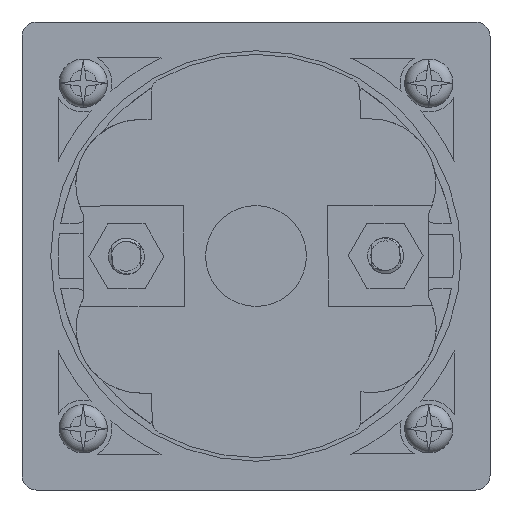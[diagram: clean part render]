
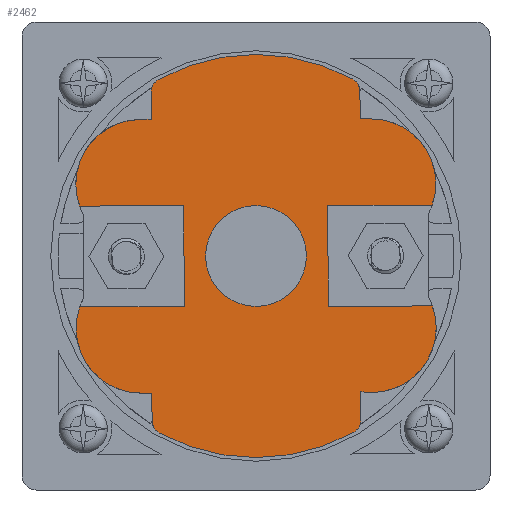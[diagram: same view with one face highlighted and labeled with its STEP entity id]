
A CAD part, front view. The second image highlights one B-rep face of the part: STEP entity #2462.
In plain terms, the highlighted planar face has unit normal (0, -1, 0).
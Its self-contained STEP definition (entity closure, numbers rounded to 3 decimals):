
#1347=FACE_BOUND('',#5130,.T.);
#1348=FACE_BOUND('',#5131,.T.);
#2462=ADVANCED_FACE('',(#1347,#1348),#3197,.F.);
#3197=PLANE('',#20455);
#5130=EDGE_LOOP('',(#12162,#12163,#12164,#12165,#12166,#12167,#12168,#12169,
#12170,#12171,#12172,#12173,#12174,#12175,#12176,#12177,#12178,#12179,#12180,
#12181,#12182,#12183,#12184,#12185,#12186));
#5131=EDGE_LOOP('',(#12187));
#6328=LINE('',#86152,#7697);
#6331=LINE('',#86158,#7700);
#6335=LINE('',#86170,#7704);
#6338=LINE('',#86178,#7707);
#6340=LINE('',#86182,#7709);
#6342=LINE('',#86186,#7711);
#6344=LINE('',#86202,#7713);
#6348=LINE('',#86223,#7717);
#6350=LINE('',#86240,#7719);
#6352=LINE('',#86244,#7721);
#6441=LINE('',#86498,#7810);
#6446=LINE('',#86510,#7815);
#6481=LINE('',#86624,#7850);
#6485=LINE('',#86646,#7854);
#7697=VECTOR('',#23760,1.);
#7700=VECTOR('',#23765,1.);
#7704=VECTOR('',#23777,1.);
#7707=VECTOR('',#23786,1.);
#7709=VECTOR('',#23790,1.);
#7711=VECTOR('',#23794,1.);
#7713=VECTOR('',#23802,1.);
#7717=VECTOR('',#23812,1.);
#7719=VECTOR('',#23822,1.);
#7721=VECTOR('',#23826,1.);
#7810=VECTOR('',#24067,1.);
#7815=VECTOR('',#24082,1.);
#7850=VECTOR('',#24183,1.);
#7854=VECTOR('',#24209,1.);
#12162=ORIENTED_EDGE('',*,*,#17607,.F.);
#12163=ORIENTED_EDGE('',*,*,#17605,.T.);
#12164=ORIENTED_EDGE('',*,*,#17601,.T.);
#12165=ORIENTED_EDGE('',*,*,#17732,.T.);
#12166=ORIENTED_EDGE('',*,*,#17800,.T.);
#12167=ORIENTED_EDGE('',*,*,#17801,.T.);
#12168=ORIENTED_EDGE('',*,*,#17802,.T.);
#12169=ORIENTED_EDGE('',*,*,#17740,.T.);
#12170=ORIENTED_EDGE('',*,*,#17597,.T.);
#12171=ORIENTED_EDGE('',*,*,#17594,.T.);
#12172=ORIENTED_EDGE('',*,*,#17591,.T.);
#12173=ORIENTED_EDGE('',*,*,#17589,.F.);
#12174=ORIENTED_EDGE('',*,*,#17587,.F.);
#12175=ORIENTED_EDGE('',*,*,#17585,.F.);
#12176=ORIENTED_EDGE('',*,*,#17583,.T.);
#12177=ORIENTED_EDGE('',*,*,#17581,.T.);
#12178=ORIENTED_EDGE('',*,*,#17793,.T.);
#12179=ORIENTED_EDGE('',*,*,#17803,.T.);
#12180=ORIENTED_EDGE('',*,*,#17804,.T.);
#12181=ORIENTED_EDGE('',*,*,#17805,.T.);
#12182=ORIENTED_EDGE('',*,*,#17806,.T.);
#12183=ORIENTED_EDGE('',*,*,#17609,.T.);
#12184=ORIENTED_EDGE('',*,*,#17578,.T.);
#12185=ORIENTED_EDGE('',*,*,#17575,.F.);
#12186=ORIENTED_EDGE('',*,*,#17572,.F.);
#12187=ORIENTED_EDGE('',*,*,#17571,.F.);
#15117=VERTEX_POINT('',#86150);
#15118=VERTEX_POINT('',#86153);
#15119=VERTEX_POINT('',#86154);
#15120=VERTEX_POINT('',#86159);
#15122=VERTEX_POINT('',#86165);
#15123=VERTEX_POINT('',#86169);
#15124=VERTEX_POINT('',#86171);
#15125=VERTEX_POINT('',#86175);
#15126=VERTEX_POINT('',#86179);
#15127=VERTEX_POINT('',#86183);
#15128=VERTEX_POINT('',#86187);
#15129=VERTEX_POINT('',#86191);
#15131=VERTEX_POINT('',#86203);
#15133=VERTEX_POINT('',#86215);
#15136=VERTEX_POINT('',#86222);
#15137=VERTEX_POINT('',#86224);
#15139=VERTEX_POINT('',#86237);
#15141=VERTEX_POINT('',#86245);
#15220=VERTEX_POINT('',#86496);
#15224=VERTEX_POINT('',#86511);
#15264=VERTEX_POINT('',#86622);
#15268=VERTEX_POINT('',#86636);
#15269=VERTEX_POINT('',#86638);
#15270=VERTEX_POINT('',#86641);
#15271=VERTEX_POINT('',#86643);
#15272=VERTEX_POINT('',#86645);
#17571=EDGE_CURVE('',#15117,#15117,#19017,.T.);
#17572=EDGE_CURVE('',#15118,#15119,#6328,.T.);
#17575=EDGE_CURVE('',#15119,#15120,#6331,.T.);
#17578=EDGE_CURVE('',#15122,#15120,#19019,.T.);
#17581=EDGE_CURVE('',#15124,#15123,#6335,.T.);
#17583=EDGE_CURVE('',#15125,#15124,#19020,.T.);
#17585=EDGE_CURVE('',#15125,#15126,#6338,.T.);
#17587=EDGE_CURVE('',#15126,#15127,#6340,.T.);
#17589=EDGE_CURVE('',#15127,#15128,#6342,.T.);
#17591=EDGE_CURVE('',#15129,#15128,#19021,.T.);
#17594=EDGE_CURVE('',#15131,#15129,#6344,.T.);
#17597=EDGE_CURVE('',#15133,#15131,#19022,.T.);
#17601=EDGE_CURVE('',#15137,#15136,#6348,.T.);
#17605=EDGE_CURVE('',#15139,#15137,#19024,.T.);
#17607=EDGE_CURVE('',#15139,#15118,#6350,.T.);
#17609=EDGE_CURVE('',#15141,#15122,#6352,.T.);
#17732=EDGE_CURVE('',#15136,#15220,#6441,.T.);
#17740=EDGE_CURVE('',#15224,#15133,#6446,.T.);
#17793=EDGE_CURVE('',#15123,#15264,#6481,.T.);
#17800=EDGE_CURVE('',#15220,#15268,#19080,.T.);
#17801=EDGE_CURVE('',#15268,#15269,#19081,.T.);
#17802=EDGE_CURVE('',#15269,#15224,#19082,.T.);
#17803=EDGE_CURVE('',#15264,#15270,#19083,.T.);
#17804=EDGE_CURVE('',#15270,#15271,#19084,.T.);
#17805=EDGE_CURVE('',#15271,#15272,#19085,.T.);
#17806=EDGE_CURVE('',#15272,#15141,#6485,.T.);
#19017=CIRCLE('',#20307,7.);
#19019=CIRCLE('',#20312,9.);
#19020=CIRCLE('',#20315,9.);
#19021=CIRCLE('',#20320,9.);
#19022=CIRCLE('',#20323,8.96);
#19024=CIRCLE('',#20327,9.);
#19080=CIRCLE('',#20449,2.);
#19081=CIRCLE('',#20450,28.);
#19082=CIRCLE('',#20451,2.);
#19083=CIRCLE('',#20452,2.);
#19084=CIRCLE('',#20453,28.);
#19085=CIRCLE('',#20454,2.);
#20307=AXIS2_PLACEMENT_3D('',#86149,#23756,#23757);
#20312=AXIS2_PLACEMENT_3D('',#86164,#23771,#23772);
#20315=AXIS2_PLACEMENT_3D('',#86174,#23781,#23782);
#20320=AXIS2_PLACEMENT_3D('',#86190,#23798,#23799);
#20323=AXIS2_PLACEMENT_3D('',#86214,#23805,#23806);
#20327=AXIS2_PLACEMENT_3D('',#86236,#23817,#23818);
#20449=AXIS2_PLACEMENT_3D('',#86635,#24197,#24198);
#20450=AXIS2_PLACEMENT_3D('',#86637,#24199,#24200);
#20451=AXIS2_PLACEMENT_3D('',#86639,#24201,#24202);
#20452=AXIS2_PLACEMENT_3D('',#86640,#24203,#24204);
#20453=AXIS2_PLACEMENT_3D('',#86642,#24205,#24206);
#20454=AXIS2_PLACEMENT_3D('',#86644,#24207,#24208);
#20455=AXIS2_PLACEMENT_3D('',#86647,#24210,#24211);
#23756=DIRECTION('',(0.,-1.,0.));
#23757=DIRECTION('',(-1.,0.,-0.003));
#23760=DIRECTION('',(-0.003,0.,1.));
#23765=DIRECTION('',(-1.,0.,-0.003));
#23771=DIRECTION('',(0.,-1.,0.));
#23772=DIRECTION('',(-1.,0.,-0.003));
#23777=DIRECTION('',(-1.,0.,-0.003));
#23781=DIRECTION('',(0.,-1.,0.));
#23782=DIRECTION('',(1.,0.,0.003));
#23786=DIRECTION('',(-1.,0.,-0.003));
#23790=DIRECTION('',(0.003,0.,-1.));
#23794=DIRECTION('',(1.,0.,0.003));
#23798=DIRECTION('',(0.,-1.,0.));
#23799=DIRECTION('',(0.,0.,-1.));
#23802=DIRECTION('',(1.,0.,0.003));
#23805=DIRECTION('',(0.,-1.,0.));
#23806=DIRECTION('',(0.,0.,-1.));
#23812=DIRECTION('',(1.,0.,0.003));
#23817=DIRECTION('',(0.,-1.,0.));
#23818=DIRECTION('',(-0.89,0.,0.456));
#23822=DIRECTION('',(1.,0.,0.003));
#23826=DIRECTION('',(-1.,0.,-0.003));
#24067=DIRECTION('',(0.003,0.,-1.));
#24082=DIRECTION('',(-0.003,0.,1.));
#24183=DIRECTION('',(-0.003,0.,1.));
#24197=DIRECTION('',(0.,-1.,0.));
#24198=DIRECTION('',(1.,0.,0.003));
#24199=DIRECTION('',(0.,-1.,0.));
#24200=DIRECTION('',(1.,0.,0.003));
#24201=DIRECTION('',(0.,-1.,0.));
#24202=DIRECTION('',(1.,0.,0.003));
#24203=DIRECTION('',(0.,-1.,0.));
#24204=DIRECTION('',(1.,0.,0.003));
#24205=DIRECTION('',(0.,-1.,0.));
#24206=DIRECTION('',(1.,0.,0.003));
#24207=DIRECTION('',(0.,-1.,0.));
#24208=DIRECTION('',(1.,0.,0.003));
#24209=DIRECTION('',(0.003,0.,-1.));
#24210=DIRECTION('',(0.,1.,0.));
#24211=DIRECTION('',(0.,0.,1.));
#86149=CARTESIAN_POINT('',(0.,-67.6,0.));
#86150=CARTESIAN_POINT('',(-7.,-67.6,-0.018));
#86152=CARTESIAN_POINT('',(-9.982,-67.6,-7.026));
#86153=CARTESIAN_POINT('',(-9.982,-67.6,-7.026));
#86154=CARTESIAN_POINT('',(-10.018,-67.6,6.974));
#86158=CARTESIAN_POINT('',(-10.018,-67.6,6.974));
#86159=CARTESIAN_POINT('',(-24.503,-67.6,6.937));
#86164=CARTESIAN_POINT('',(-16.026,-67.6,9.959));
#86165=CARTESIAN_POINT('',(-16.049,-67.6,18.959));
#86169=CARTESIAN_POINT('',(14.451,-67.6,19.037));
#86170=CARTESIAN_POINT('',(15.951,-67.6,19.041));
#86171=CARTESIAN_POINT('',(15.951,-67.6,19.041));
#86174=CARTESIAN_POINT('',(15.974,-67.6,10.041));
#86175=CARTESIAN_POINT('',(24.467,-67.6,7.063));
#86178=CARTESIAN_POINT('',(34.164,-67.6,7.088));
#86179=CARTESIAN_POINT('',(9.982,-67.6,7.026));
#86182=CARTESIAN_POINT('',(9.982,-67.6,7.026));
#86183=CARTESIAN_POINT('',(10.018,-67.6,-6.974));
#86186=CARTESIAN_POINT('',(10.018,-67.6,-6.974));
#86187=CARTESIAN_POINT('',(24.503,-67.6,-6.937));
#86190=CARTESIAN_POINT('',(16.026,-67.6,-9.959));
#86191=CARTESIAN_POINT('',(16.119,-67.6,-18.958));
#86202=CARTESIAN_POINT('',(23.752,-67.6,-18.938));
#86203=CARTESIAN_POINT('',(15.978,-67.6,-18.959));
#86214=CARTESIAN_POINT('',(16.02,-67.6,-9.999));
#86215=CARTESIAN_POINT('',(14.548,-67.6,-18.837));
#86222=CARTESIAN_POINT('',(-14.451,-67.6,-19.037));
#86223=CARTESIAN_POINT('',(23.753,-67.6,-18.934));
#86224=CARTESIAN_POINT('',(-15.951,-67.6,-19.041));
#86236=CARTESIAN_POINT('',(-15.974,-67.6,-10.041));
#86237=CARTESIAN_POINT('',(-24.468,-67.6,-7.063));
#86240=CARTESIAN_POINT('',(-34.164,-67.6,-7.088));
#86244=CARTESIAN_POINT('',(-14.549,-67.6,18.963));
#86245=CARTESIAN_POINT('',(-14.549,-67.6,18.963));
#86496=CARTESIAN_POINT('',(-14.441,-67.6,-22.835));
#86498=CARTESIAN_POINT('',(-14.451,-67.6,-19.037));
#86510=CARTESIAN_POINT('',(14.558,-67.6,-22.761));
#86511=CARTESIAN_POINT('',(14.558,-67.6,-22.761));
#86622=CARTESIAN_POINT('',(14.441,-67.6,22.835));
#86624=CARTESIAN_POINT('',(14.451,-67.6,19.037));
#86635=CARTESIAN_POINT('',(-12.441,-67.6,-22.83));
#86636=CARTESIAN_POINT('',(-13.398,-67.6,-24.586));
#86637=CARTESIAN_POINT('',(0.,-67.6,0.));
#86638=CARTESIAN_POINT('',(13.525,-67.6,-24.517));
#86639=CARTESIAN_POINT('',(12.558,-67.6,-22.766));
#86640=CARTESIAN_POINT('',(12.441,-67.6,22.83));
#86641=CARTESIAN_POINT('',(13.398,-67.6,24.586));
#86642=CARTESIAN_POINT('',(0.,-67.6,0.));
#86643=CARTESIAN_POINT('',(-13.525,-67.6,24.517));
#86644=CARTESIAN_POINT('',(-12.558,-67.6,22.766));
#86645=CARTESIAN_POINT('',(-14.558,-67.6,22.761));
#86646=CARTESIAN_POINT('',(-14.558,-67.6,22.761));
#86647=CARTESIAN_POINT('',(23.741,-67.6,-14.593));
